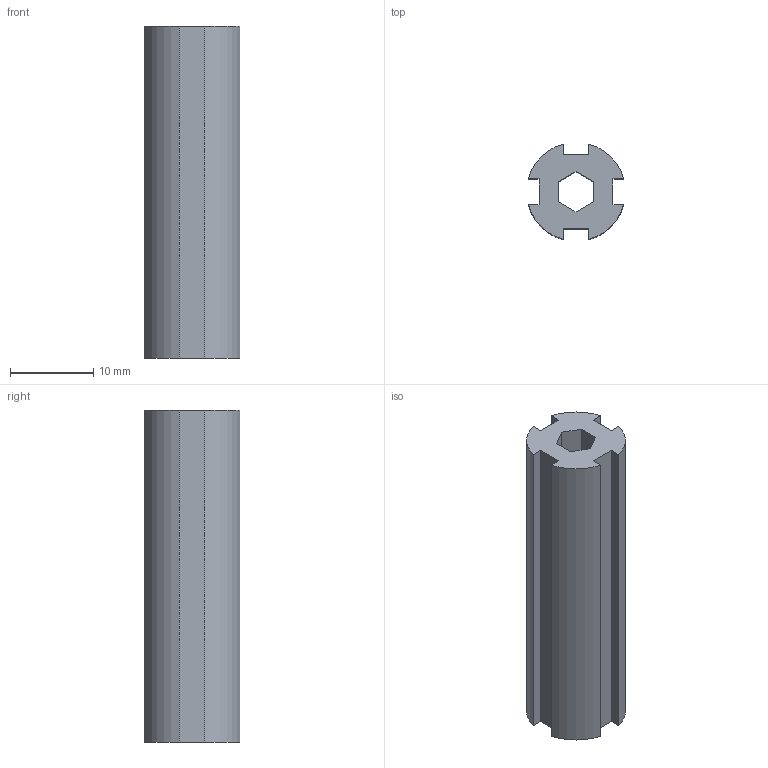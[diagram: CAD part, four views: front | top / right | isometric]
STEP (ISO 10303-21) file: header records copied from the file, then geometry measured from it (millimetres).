
FILE_DESCRIPTION (( 'STEP AP203' ), '1' );
FILE_NAME ('Main Rear Axle.STEP', '2026-01-17T21:10:57', ( '' ), ( '' ), 'SwSTEP 2.0', 'SolidWorks 2026', '' );
FILE_SCHEMA (( 'CONFIG_CONTROL_DESIGN' ));
Length unit declared in the file: millimetre
Products named in the file (1): Main Rear Axle
Bounding box: 11.49 x 11.49 x 40 mm (x, y, z)
Volume: 3127.5 mm3; surface area: 2642.2 mm2
Topology: 1 solids, 1 shells, 24 faces, 66 edges, 44 vertices
Faces by surface type: plane 20, cylinder 4
Entity records: 837 total; most frequent: CARTESIAN_POINT 135, ORIENTED_EDGE 132, DIRECTION 124, EDGE_CURVE 66, VECTOR 58, LINE 58, VERTEX_POINT 44, AXIS2_PLACEMENT_3D 33
